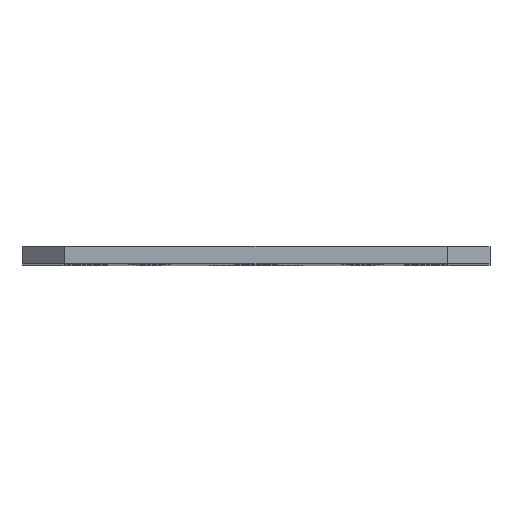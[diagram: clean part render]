
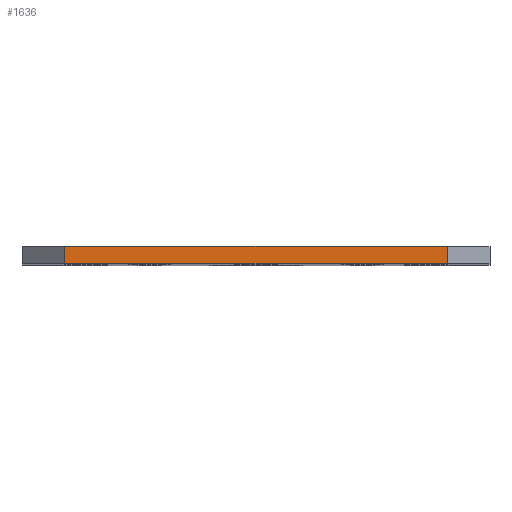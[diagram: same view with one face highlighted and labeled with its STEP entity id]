
A CAD part, top view. The second image highlights one B-rep face of the part: STEP entity #1636.
In plain terms, the highlighted planar face has unit normal (0, 0, 1).
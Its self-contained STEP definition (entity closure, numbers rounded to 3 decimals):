
#135 = EDGE_CURVE ( 'NONE', #421, #1279, #1504, .T. ) ;
#154 = CARTESIAN_POINT ( 'NONE',  ( 5., 2., 0. ) ) ;
#198 = DIRECTION ( 'NONE',  ( 0., 0., -1. ) ) ;
#324 = CARTESIAN_POINT ( 'NONE',  ( 5., 2., 0. ) ) ;
#349 = LINE ( 'NONE', #897, #1494 ) ;
#399 = DIRECTION ( 'NONE',  ( 0., -1., 0. ) ) ;
#421 = VERTEX_POINT ( 'NONE', #491 ) ;
#491 = CARTESIAN_POINT ( 'NONE',  ( 5., 2., 0. ) ) ;
#547 = ORIENTED_EDGE ( 'NONE', *, *, #1283, .T. ) ;
#555 = AXIS2_PLACEMENT_3D ( 'NONE', #324, #198, #1250 ) ;
#598 = CARTESIAN_POINT ( 'NONE',  ( 5., 0., 0. ) ) ;
#629 = EDGE_CURVE ( 'NONE', #1279, #760, #349, .T. ) ;
#640 = CARTESIAN_POINT ( 'NONE',  ( 5., 0., 0. ) ) ;
#651 = EDGE_CURVE ( 'NONE', #421, #1645, #714, .T. ) ;
#655 = CARTESIAN_POINT ( 'NONE',  ( 50., 2., 0. ) ) ;
#683 = CARTESIAN_POINT ( 'NONE',  ( 50., 0., 0. ) ) ;
#714 = LINE ( 'NONE', #154, #1660 ) ;
#760 = VERTEX_POINT ( 'NONE', #683 ) ;
#846 = EDGE_LOOP ( 'NONE', ( #547, #1277, #1187, #1486 ) ) ;
#897 = CARTESIAN_POINT ( 'NONE',  ( 50., 2., 0. ) ) ;
#903 = VECTOR ( 'NONE', #1306, 1000. ) ;
#1137 = DIRECTION ( 'NONE',  ( 1., 0., 0. ) ) ;
#1187 = ORIENTED_EDGE ( 'NONE', *, *, #135, .F. ) ;
#1190 = DIRECTION ( 'NONE',  ( 0., -1., 0. ) ) ;
#1194 = LINE ( 'NONE', #640, #903 ) ;
#1250 = DIRECTION ( 'NONE',  ( -1., 0., 0. ) ) ;
#1277 = ORIENTED_EDGE ( 'NONE', *, *, #629, .F. ) ;
#1279 = VERTEX_POINT ( 'NONE', #655 ) ;
#1283 = EDGE_CURVE ( 'NONE', #1645, #760, #1194, .T. ) ;
#1306 = DIRECTION ( 'NONE',  ( 1., 0., 0. ) ) ;
#1407 = CARTESIAN_POINT ( 'NONE',  ( 5., 2., 0. ) ) ;
#1466 = FACE_OUTER_BOUND ( 'NONE', #846, .T. ) ;
#1486 = ORIENTED_EDGE ( 'NONE', *, *, #651, .T. ) ;
#1494 = VECTOR ( 'NONE', #1190, 1000. ) ;
#1504 = LINE ( 'NONE', #1407, #1648 ) ;
#1536 = PLANE ( 'NONE',  #555 ) ;
#1636 = ADVANCED_FACE ( 'NONE', ( #1466 ), #1536, .F. ) ;
#1645 = VERTEX_POINT ( 'NONE', #598 ) ;
#1648 = VECTOR ( 'NONE', #1137, 1000. ) ;
#1660 = VECTOR ( 'NONE', #399, 1000. ) ;
